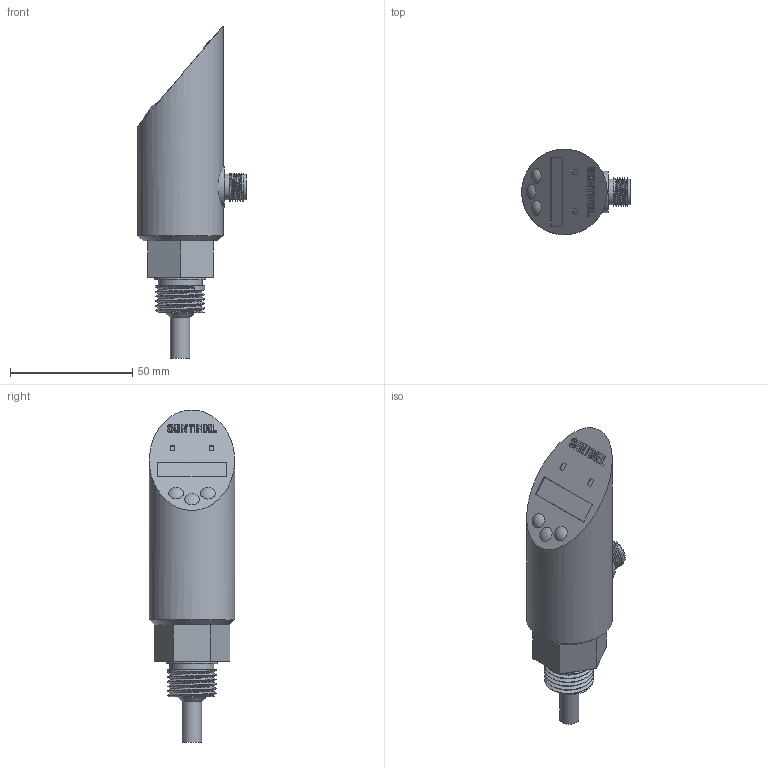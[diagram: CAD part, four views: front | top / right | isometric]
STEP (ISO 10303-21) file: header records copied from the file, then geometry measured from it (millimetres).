
FILE_DESCRIPTION(/* description */ (''),/* implementation_level */ '2;1');
FILE_NAME(/* name */ 'PLSN-1-2G-AN6D-SC.stp',/* time_stamp */ '2022-06-14T16:15:17+08:00',/* author */ (''),/* organization */ (''),/* preprocessor_version */ 'ST-DEVELOPER v16',/* originating_system */ 'SIEMENS PLM Software NX 10.0',/* authorisation */ '');
FILE_SCHEMA (('CONFIG_CONTROL_DESIGN'));
Length unit declared in the file: millimetre
Products named in the file (1): PLSN-G1-2
Bounding box: 44.5 x 35 x 136 mm (x, y, z)
Volume: 79476.1 mm3; surface area: 13903.7 mm2
Topology: 1 solids, 1 shells, 166 faces, 402 edges, 265 vertices
Faces by surface type: plane 124, cylinder 17, extrusion 16, bspline 4, sphere 3, cone 2
Full cylindrical faces by diameter (mm): 0.75 x5, 8 x1, 9 x1, 10.5 x2, 17 x1, 18 x1, 21 x1, 35 x1
Entity records: 6813 total; most frequent: CARTESIAN_POINT 3254, ORIENTED_EDGE 762, DIRECTION 557, EDGE_CURVE 381, VERTEX_POINT 260, EDGE_LOOP 209, B_SPLINE_CURVE_WITH_KNOTS 196, AXIS2_PLACEMENT_3D 193
